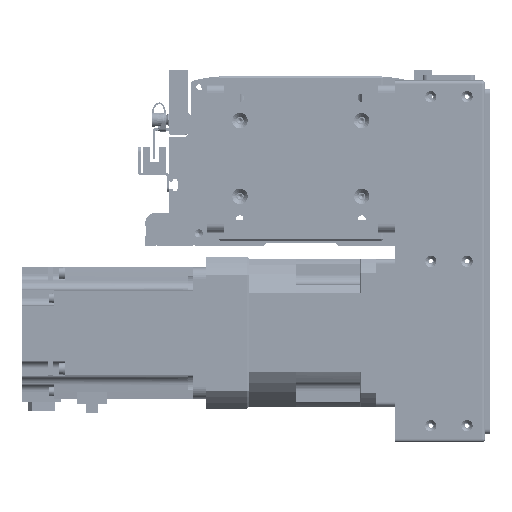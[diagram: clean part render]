
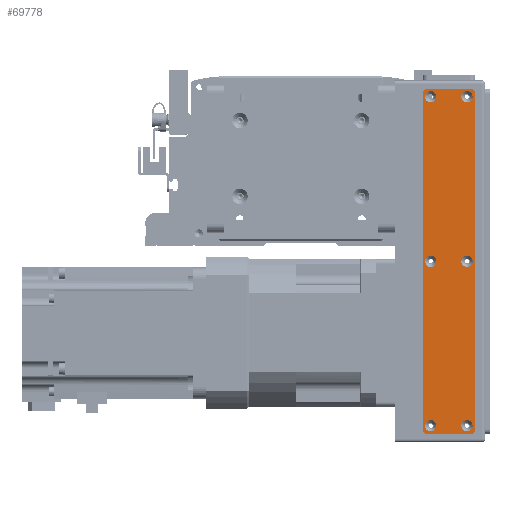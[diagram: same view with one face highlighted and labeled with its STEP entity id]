
A CAD part, front view. The second image highlights one B-rep face of the part: STEP entity #69778.
In plain terms, the highlighted planar face has unit normal (0, -1, 0).
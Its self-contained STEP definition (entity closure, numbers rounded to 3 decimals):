
#1887=FACE_BOUND('',#14553,.T.);
#1888=FACE_BOUND('',#14554,.T.);
#1889=FACE_BOUND('',#14555,.T.);
#1890=FACE_BOUND('',#14556,.T.);
#1891=FACE_BOUND('',#14557,.T.);
#1892=FACE_BOUND('',#14558,.T.);
#5357=PLANE('',#77199);
#10149=FACE_OUTER_BOUND('',#14552,.T.);
#14552=EDGE_LOOP('',(#65617,#65618,#65619,#65620,#65621,#65622,#65623,#65624));
#14553=EDGE_LOOP('',(#65625));
#14554=EDGE_LOOP('',(#65626));
#14555=EDGE_LOOP('',(#65627));
#14556=EDGE_LOOP('',(#65628));
#14557=EDGE_LOOP('',(#65629));
#14558=EDGE_LOOP('',(#65630));
#21007=LINE('',#120004,#27417);
#21008=LINE('',#120008,#27418);
#21009=LINE('',#120012,#27419);
#21010=LINE('',#120015,#27420);
#27417=VECTOR('',#97086,10.);
#27418=VECTOR('',#97089,10.);
#27419=VECTOR('',#97092,10.);
#27420=VECTOR('',#97095,10.);
#30117=CIRCLE('',#77167,3.45);
#30120=CIRCLE('',#77172,3.45);
#30123=CIRCLE('',#77177,3.45);
#30126=CIRCLE('',#77182,3.45);
#30129=CIRCLE('',#77187,3.45);
#30132=CIRCLE('',#77192,3.45);
#30135=CIRCLE('',#77197,3.);
#30137=CIRCLE('',#77200,3.);
#30138=CIRCLE('',#77201,3.);
#30139=CIRCLE('',#77202,3.);
#36542=VERTEX_POINT('',#119934);
#36545=VERTEX_POINT('',#119944);
#36548=VERTEX_POINT('',#119954);
#36551=VERTEX_POINT('',#119964);
#36554=VERTEX_POINT('',#119974);
#36557=VERTEX_POINT('',#119984);
#36560=VERTEX_POINT('',#119994);
#36561=VERTEX_POINT('',#119995);
#36564=VERTEX_POINT('',#120003);
#36565=VERTEX_POINT('',#120005);
#36566=VERTEX_POINT('',#120007);
#36567=VERTEX_POINT('',#120009);
#36568=VERTEX_POINT('',#120011);
#36569=VERTEX_POINT('',#120013);
#46231=EDGE_CURVE('',#36542,#36542,#30117,.T.);
#46236=EDGE_CURVE('',#36545,#36545,#30120,.T.);
#46241=EDGE_CURVE('',#36548,#36548,#30123,.T.);
#46246=EDGE_CURVE('',#36551,#36551,#30126,.T.);
#46251=EDGE_CURVE('',#36554,#36554,#30129,.T.);
#46256=EDGE_CURVE('',#36557,#36557,#30132,.T.);
#46261=EDGE_CURVE('',#36560,#36561,#30135,.T.);
#46265=EDGE_CURVE('',#36560,#36564,#21007,.T.);
#46266=EDGE_CURVE('',#36565,#36564,#30137,.T.);
#46267=EDGE_CURVE('',#36565,#36566,#21008,.T.);
#46268=EDGE_CURVE('',#36567,#36566,#30138,.T.);
#46269=EDGE_CURVE('',#36567,#36568,#21009,.T.);
#46270=EDGE_CURVE('',#36569,#36568,#30139,.T.);
#46271=EDGE_CURVE('',#36569,#36561,#21010,.T.);
#65617=ORIENTED_EDGE('',*,*,#46261,.F.);
#65618=ORIENTED_EDGE('',*,*,#46265,.T.);
#65619=ORIENTED_EDGE('',*,*,#46266,.F.);
#65620=ORIENTED_EDGE('',*,*,#46267,.T.);
#65621=ORIENTED_EDGE('',*,*,#46268,.F.);
#65622=ORIENTED_EDGE('',*,*,#46269,.T.);
#65623=ORIENTED_EDGE('',*,*,#46270,.F.);
#65624=ORIENTED_EDGE('',*,*,#46271,.T.);
#65625=ORIENTED_EDGE('',*,*,#46231,.T.);
#65626=ORIENTED_EDGE('',*,*,#46236,.T.);
#65627=ORIENTED_EDGE('',*,*,#46241,.T.);
#65628=ORIENTED_EDGE('',*,*,#46246,.T.);
#65629=ORIENTED_EDGE('',*,*,#46251,.T.);
#65630=ORIENTED_EDGE('',*,*,#46256,.T.);
#69778=ADVANCED_FACE('',(#10149,#1887,#1888,#1889,#1890,#1891,#1892),#5357,
 .T.);
#77167=AXIS2_PLACEMENT_3D('',#119935,#97006,#97007);
#77172=AXIS2_PLACEMENT_3D('',#119945,#97018,#97019);
#77177=AXIS2_PLACEMENT_3D('',#119955,#97030,#97031);
#77182=AXIS2_PLACEMENT_3D('',#119965,#97042,#97043);
#77187=AXIS2_PLACEMENT_3D('',#119975,#97054,#97055);
#77192=AXIS2_PLACEMENT_3D('',#119985,#97066,#97067);
#77197=AXIS2_PLACEMENT_3D('',#119996,#97078,#97079);
#77199=AXIS2_PLACEMENT_3D('',#120002,#97084,#97085);
#77200=AXIS2_PLACEMENT_3D('',#120006,#97087,#97088);
#77201=AXIS2_PLACEMENT_3D('',#120010,#97090,#97091);
#77202=AXIS2_PLACEMENT_3D('',#120014,#97093,#97094);
#97006=DIRECTION('center_axis',(0.,1.,0.));
#97007=DIRECTION('ref_axis',(1.,0.,0.));
#97018=DIRECTION('center_axis',(0.,1.,0.));
#97019=DIRECTION('ref_axis',(1.,0.,0.));
#97030=DIRECTION('center_axis',(0.,1.,0.));
#97031=DIRECTION('ref_axis',(1.,0.,0.));
#97042=DIRECTION('center_axis',(0.,1.,0.));
#97043=DIRECTION('ref_axis',(1.,0.,0.));
#97054=DIRECTION('center_axis',(0.,1.,0.));
#97055=DIRECTION('ref_axis',(1.,0.,0.));
#97066=DIRECTION('center_axis',(0.,1.,0.));
#97067=DIRECTION('ref_axis',(1.,0.,0.));
#97078=DIRECTION('center_axis',(0.,1.,0.));
#97079=DIRECTION('ref_axis',(-0.707,0.,0.707));
#97084=DIRECTION('center_axis',(0.,-1.,0.));
#97085=DIRECTION('ref_axis',(0.,0.,-1.));
#97086=DIRECTION('',(0.,0.,-1.));
#97087=DIRECTION('center_axis',(0.,1.,0.));
#97088=DIRECTION('ref_axis',(-0.707,0.,-0.707));
#97089=DIRECTION('',(1.,0.,0.));
#97090=DIRECTION('center_axis',(0.,1.,0.));
#97091=DIRECTION('ref_axis',(0.707,0.,-0.707));
#97092=DIRECTION('',(0.,0.,1.));
#97093=DIRECTION('center_axis',(0.,1.,0.));
#97094=DIRECTION('ref_axis',(0.707,0.,0.707));
#97095=DIRECTION('',(-1.,0.,0.));
#119934=CARTESIAN_POINT('',(96.55,-1.5,11.));
#119935=CARTESIAN_POINT('Origin',(100.,-1.5,11.));
#119944=CARTESIAN_POINT('',(-103.45,-1.5,-11.));
#119945=CARTESIAN_POINT('Origin',(-100.,-1.5,-11.));
#119954=CARTESIAN_POINT('',(-3.45,-1.5,11.));
#119955=CARTESIAN_POINT('Origin',(0.,-1.5,11.));
#119964=CARTESIAN_POINT('',(-3.45,-1.5,-11.));
#119965=CARTESIAN_POINT('Origin',(0.,-1.5,-11.));
#119974=CARTESIAN_POINT('',(-103.45,-1.5,11.));
#119975=CARTESIAN_POINT('Origin',(-100.,-1.5,11.));
#119984=CARTESIAN_POINT('',(96.55,-1.5,-11.));
#119985=CARTESIAN_POINT('Origin',(100.,-1.5,-11.));
#119994=CARTESIAN_POINT('',(-105.,-1.5,13.));
#119995=CARTESIAN_POINT('',(-102.,-1.5,16.));
#119996=CARTESIAN_POINT('Origin',(-102.,-1.5,13.));
#120002=CARTESIAN_POINT('Origin',(0.,-1.5,0.));
#120003=CARTESIAN_POINT('',(-105.,-1.5,-13.));
#120004=CARTESIAN_POINT('',(-105.,-1.5,16.));
#120005=CARTESIAN_POINT('',(-102.,-1.5,-16.));
#120006=CARTESIAN_POINT('Origin',(-102.,-1.5,-13.));
#120007=CARTESIAN_POINT('',(102.,-1.5,-16.));
#120008=CARTESIAN_POINT('',(-105.,-1.5,-16.));
#120009=CARTESIAN_POINT('',(105.,-1.5,-13.));
#120010=CARTESIAN_POINT('Origin',(102.,-1.5,-13.));
#120011=CARTESIAN_POINT('',(105.,-1.5,13.));
#120012=CARTESIAN_POINT('',(105.,-1.5,-16.));
#120013=CARTESIAN_POINT('',(102.,-1.5,16.));
#120014=CARTESIAN_POINT('Origin',(102.,-1.5,13.));
#120015=CARTESIAN_POINT('',(105.,-1.5,16.));
